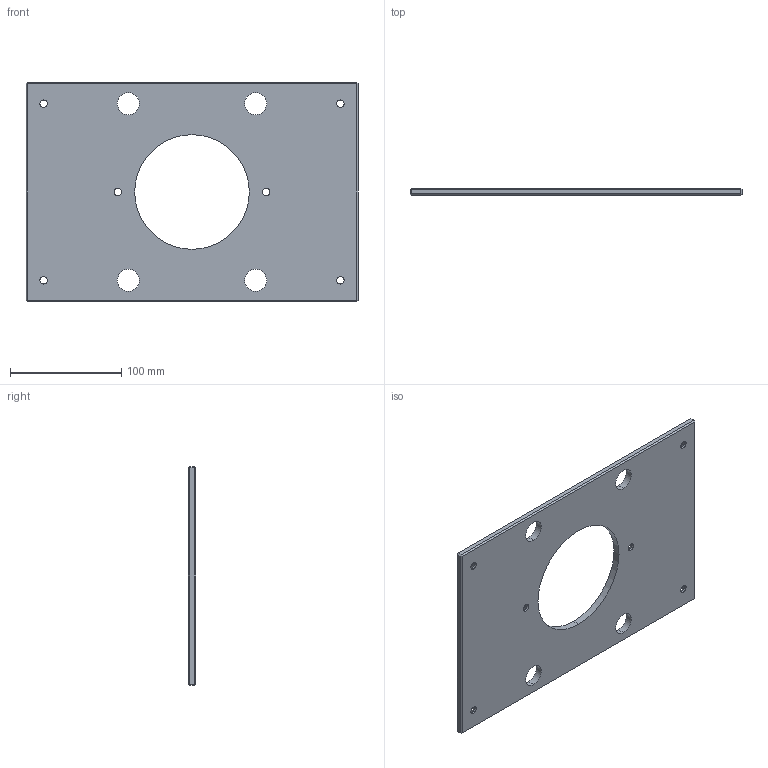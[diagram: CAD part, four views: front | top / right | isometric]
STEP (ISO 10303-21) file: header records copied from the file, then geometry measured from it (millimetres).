
FILE_DESCRIPTION (( 'STEP AP214' ), '1' );
FILE_NAME ('ME-0619-CH-0812.STEP', '2020-02-10T10:07:58', ( '' ), ( '' ), 'SwSTEP 2.0', 'SolidWorks 2018', '' );
FILE_SCHEMA (( 'AUTOMOTIVE_DESIGN' ));
Length unit declared in the file: inch
Products named in the file (1): ME-0619-CH-0812
Bounding box: 298.45 x 6.35 x 196.85 mm (x, y, z)
Volume: 307776.4 mm3; surface area: 106972.6 mm2
Topology: 1 solids, 1 shells, 60 faces, 138 edges, 80 vertices
Faces by surface type: plane 26, cylinder 22, cone 12
Entity records: 1754 total; most frequent: DIRECTION 316, CARTESIAN_POINT 279, ORIENTED_EDGE 276, EDGE_CURVE 138, AXIS2_PLACEMENT_3D 117, EDGE_LOOP 82, LINE 82, VECTOR 82
